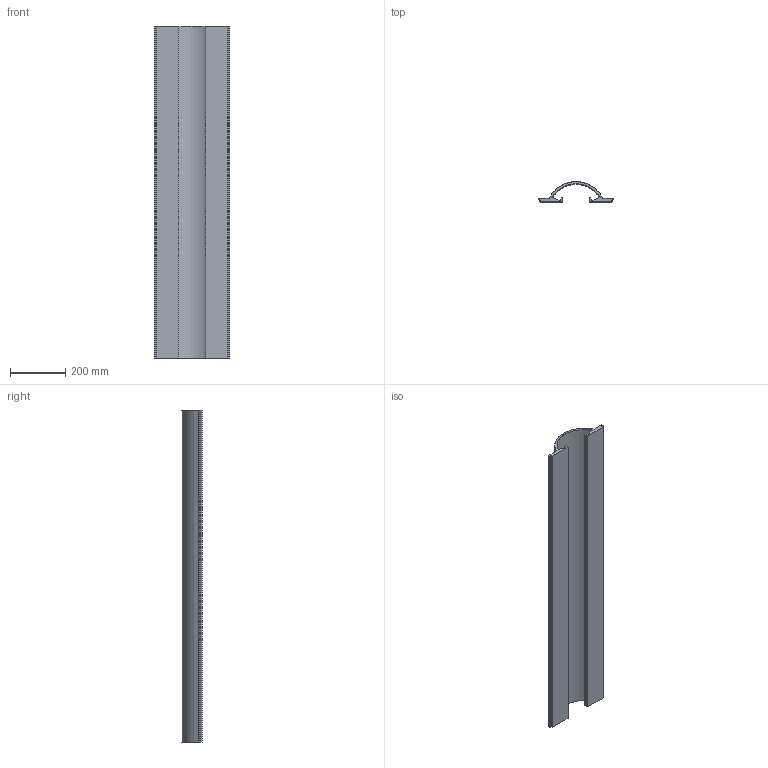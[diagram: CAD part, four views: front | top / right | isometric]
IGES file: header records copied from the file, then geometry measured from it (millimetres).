
Start section: SolidWorks IGES file using analytic representation for surfaces
Global section: file name: \\USINE\Dimitri\CATALOGUE SEDAP\Gamme Sedap\7002 Dooble 100\7002.IGS; native system: SolidWorks 2016; preprocessor: SolidWorks 2016; author: Dimitri; date: 171012.144946; units: millimetre
Bounding box: 274 x 73 x 1200 mm (x, y, z)
Surface area: 1036917.1 mm2 (no closed solid volume)
Topology: 0 solids, 0 shells, 28 faces, 280 edges, 280 vertices
Faces by surface type: bspline 26, revolution 2
